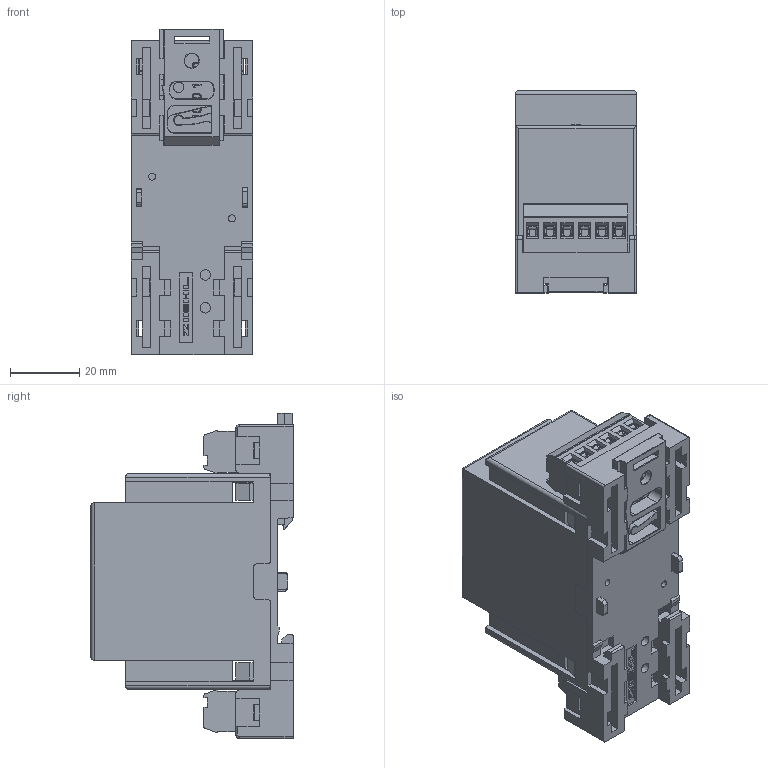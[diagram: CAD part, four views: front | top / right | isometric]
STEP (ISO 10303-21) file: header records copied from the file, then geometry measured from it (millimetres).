
FILE_DESCRIPTION (( 'STEP AP214' ), '1' );
FILE_NAME ('12180-1902-00_Pt100_3D.STEP', '2014-05-19T05:36:37', ( '' ), ( '' ), 'SwSTEP 2.0', 'SolidWorks 2014', '' );
FILE_SCHEMA (( 'AUTOMOTIVE_DESIGN' ));
Length unit declared in the file: millimetre
Products named in the file (9): 31137102; 31137106; 12180-1202-00_Pt100_3D; V2_Frontplatte; 1080 1980.3_3D_V2_Oberteil; V2_Leiterplatte; 1080 1990.5_V-Riegel_3D; 1080 1970.4_3D_V2_Unterteil; 12180-1902-00_Pt100_3D
Assembly tree (8 placements, depth 2):
  12180-1902-00_Pt100_3D
    1080 1970.4_3D_V2_Unterteil
    1080 1990.5_V-Riegel_3D
    V2_Leiterplatte
    1080 1980.3_3D_V2_Oberteil
    V2_Frontplatte
    12180-1202-00_Pt100_3D
    31137106
    31137102
Bounding box: 35 x 58.3 x 93.69 mm (x, y, z)
Volume: 40763.5 mm3; surface area: 52285.3 mm2
Topology: 7 solids, 117 shells, 2809 faces, 7589 edges, 5014 vertices
Faces by surface type: plane 1910, bspline 404, cylinder 355, cone 64, torus 58, sphere 18
Full cylindrical faces by diameter (mm): 0.2 x4, 1.5 x12, 1.8 x4, 2 x10, 2.25 x8, 2.4 x8, 2.7 x8, 2.8 x1, 3 x20, 3.5 x4, 3.658 x2, 3.9 x8, 4.2 x1, 4.5 x2, 6 x2
Entity records: 112644 total; most frequent: CARTESIAN_POINT 36423, ORIENTED_EDGE 14480, DIRECTION 12063, EDGE_CURVE 7297, LINE 5337, VECTOR 5337, VERTEX_POINT 4909, AXIS2_PLACEMENT_3D 3363
